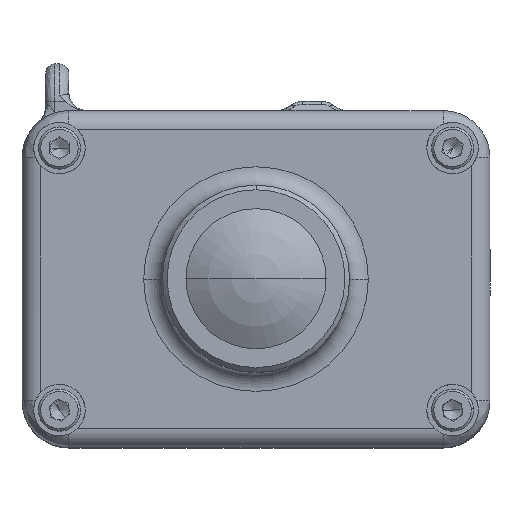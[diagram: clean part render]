
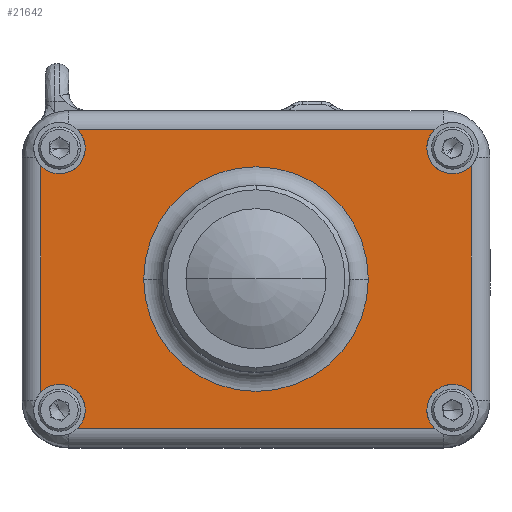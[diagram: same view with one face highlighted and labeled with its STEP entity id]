
A CAD part, top view. The second image highlights one B-rep face of the part: STEP entity #21642.
In plain terms, the highlighted planar face has unit normal (0, 0, 1).
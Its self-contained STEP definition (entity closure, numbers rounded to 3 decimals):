
#1700 = CIRCLE ( 'NONE', #28332, 2.75 ) ;
#2784 = CARTESIAN_POINT ( 'NONE',  ( -19.113, 16., 4. ) ) ;
#2810 = CARTESIAN_POINT ( 'NONE',  ( 19.113, 16., 4. ) ) ;
#2908 = CARTESIAN_POINT ( 'NONE',  ( 18.25, -14., 4. ) ) ;
#2909 = CARTESIAN_POINT ( 'NONE',  ( 19.113, -16., 4. ) ) ;
#5106 = CARTESIAN_POINT ( 'NONE',  ( 0., 0., 4. ) ) ;
#5107 = DIRECTION ( 'NONE',  ( 0., 0., -1. ) ) ;
#5108 = DIRECTION ( 'NONE',  ( 1., 0., 0. ) ) ;
#5263 = CARTESIAN_POINT ( 'NONE',  ( 21., 14., 4. ) ) ;
#5264 = DIRECTION ( 'NONE',  ( 0., 0., 1. ) ) ;
#5265 = DIRECTION ( 'NONE',  ( 1., 0., 0. ) ) ;
#5392 = CARTESIAN_POINT ( 'NONE',  ( -21., 14., 4. ) ) ;
#5393 = DIRECTION ( 'NONE',  ( 0., 0., 1. ) ) ;
#5394 = DIRECTION ( 'NONE',  ( 1., 0., 0. ) ) ;
#6044 = VERTEX_POINT ( 'NONE', #14900 ) ;
#6050 = VERTEX_POINT ( 'NONE', #14913 ) ;
#6051 = VERTEX_POINT ( 'NONE', #14914 ) ;
#6610 = VERTEX_POINT ( 'NONE', #8005 ) ;
#6612 = VERTEX_POINT ( 'NONE', #8006 ) ;
#6636 = VERTEX_POINT ( 'NONE', #8027 ) ;
#6637 = VERTEX_POINT ( 'NONE', #8028 ) ;
#7571 = CARTESIAN_POINT ( 'NONE',  ( -23., -12.113, 4. ) ) ;
#8005 = CARTESIAN_POINT ( 'NONE',  ( -23., 12.113, 4. ) ) ;
#8006 = CARTESIAN_POINT ( 'NONE',  ( -18.25, 14., 4. ) ) ;
#8027 = CARTESIAN_POINT ( 'NONE',  ( 18.25, 14., 4. ) ) ;
#8028 = CARTESIAN_POINT ( 'NONE',  ( 23., 12.113, 4. ) ) ;
#8453 = CARTESIAN_POINT ( 'NONE',  ( 12., 0., 4. ) ) ;
#8548 = CARTESIAN_POINT ( 'NONE',  ( 23., -12.113, 4. ) ) ;
#10487 = VERTEX_POINT ( 'NONE', #7571 ) ;
#12171 = FACE_OUTER_BOUND ( 'NONE', #35533, .T. ) ;
#12175 = FACE_BOUND ( 'NONE', #35536, .T. ) ;
#14667 = AXIS2_PLACEMENT_3D ( 'NONE', #32808, #32793, #32811 ) ;
#14900 = CARTESIAN_POINT ( 'NONE',  ( -12., 0., 4. ) ) ;
#14913 = CARTESIAN_POINT ( 'NONE',  ( -19.113, -16., 4. ) ) ;
#14914 = CARTESIAN_POINT ( 'NONE',  ( -18.25, -14., 4. ) ) ;
#16401 = ORIENTED_EDGE ( 'NONE', *, *, #26069, .T. ) ;
#16408 = ORIENTED_EDGE ( 'NONE', *, *, #25976, .F. ) ;
#16424 = ORIENTED_EDGE ( 'NONE', *, *, #26216, .T. ) ;
#16444 = ORIENTED_EDGE ( 'NONE', *, *, #26484, .F. ) ;
#16460 = ORIENTED_EDGE ( 'NONE', *, *, #26043, .T. ) ;
#16470 = ORIENTED_EDGE ( 'NONE', *, *, #26079, .F. ) ;
#16478 = ORIENTED_EDGE ( 'NONE', *, *, #26536, .T. ) ;
#16481 = ORIENTED_EDGE ( 'NONE', *, *, #26202, .T. ) ;
#16524 = ORIENTED_EDGE ( 'NONE', *, *, #25945, .F. ) ;
#16531 = ORIENTED_EDGE ( 'NONE', *, *, #26649, .F. ) ;
#16536 = ORIENTED_EDGE ( 'NONE', *, *, #25975, .F. ) ;
#16788 = ORIENTED_EDGE ( 'NONE', *, *, #26453, .F. ) ;
#16790 = ORIENTED_EDGE ( 'NONE', *, *, #26734, .F. ) ;
#16800 = ORIENTED_EDGE ( 'NONE', *, *, #26052, .F. ) ;
#18609 = VERTEX_POINT ( 'NONE', #2784 ) ;
#19295 = VERTEX_POINT ( 'NONE', #2810 ) ;
#20702 = VERTEX_POINT ( 'NONE', #2908 ) ;
#20703 = VERTEX_POINT ( 'NONE', #2909 ) ;
#21642 = ADVANCED_FACE ( 'NONE', ( #12175, #12171 ), #32809, .T. ) ;
#25945 = EDGE_CURVE ( 'NONE', #6051, #10487, #1700, .T. ) ;
#25975 = EDGE_CURVE ( 'NONE', #20703, #6050, #33208, .T. ) ;
#25976 = EDGE_CURVE ( 'NONE', #35350, #20702, #33206, .T. ) ;
#26043 = EDGE_CURVE ( 'NONE', #6610, #10487, #33302, .T. ) ;
#26052 = EDGE_CURVE ( 'NONE', #19295, #6636, #33313, .T. ) ;
#26069 = EDGE_CURVE ( 'NONE', #6044, #34930, #33315, .T. ) ;
#26079 = EDGE_CURVE ( 'NONE', #6612, #18609, #33343, .T. ) ;
#26202 = EDGE_CURVE ( 'NONE', #35350, #6637, #33515, .T. ) ;
#26216 = EDGE_CURVE ( 'NONE', #19295, #18609, #33538, .T. ) ;
#26453 = EDGE_CURVE ( 'NONE', #20702, #20703, #33624, .T. ) ;
#26484 = EDGE_CURVE ( 'NONE', #6050, #6051, #33647, .T. ) ;
#26536 = EDGE_CURVE ( 'NONE', #34930, #6044, #33675, .T. ) ;
#26649 = EDGE_CURVE ( 'NONE', #6636, #6637, #31150, .T. ) ;
#26734 = EDGE_CURVE ( 'NONE', #6610, #6612, #31215, .T. ) ;
#27728 = CARTESIAN_POINT ( 'NONE',  ( 21., 14., 4. ) ) ;
#27729 = DIRECTION ( 'NONE',  ( 0., 0., 1. ) ) ;
#27730 = DIRECTION ( 'NONE',  ( 1., 0., 0. ) ) ;
#27835 = CARTESIAN_POINT ( 'NONE',  ( 0., 0., 4. ) ) ;
#27836 = DIRECTION ( 'NONE',  ( 0., 0., -1. ) ) ;
#27837 = DIRECTION ( 'NONE',  ( 1., 0., 0. ) ) ;
#27918 = CARTESIAN_POINT ( 'NONE',  ( -21., 14., 4. ) ) ;
#27919 = DIRECTION ( 'NONE',  ( 0., 0., 1. ) ) ;
#27920 = DIRECTION ( 'NONE',  ( 1., 0., 0. ) ) ;
#28332 = AXIS2_PLACEMENT_3D ( 'NONE', #32310, #32311, #32312 ) ;
#28343 = AXIS2_PLACEMENT_3D ( 'NONE', #32431, #32432, #32433 ) ;
#28367 = AXIS2_PLACEMENT_3D ( 'NONE', #27728, #27729, #27730 ) ;
#28372 = AXIS2_PLACEMENT_3D ( 'NONE', #27835, #27836, #27837 ) ;
#28377 = AXIS2_PLACEMENT_3D ( 'NONE', #27918, #27919, #27920 ) ;
#28440 = AXIS2_PLACEMENT_3D ( 'NONE', #31031, #31032, #31033 ) ;
#28449 = AXIS2_PLACEMENT_3D ( 'NONE', #31076, #31077, #31078 ) ;
#28459 = AXIS2_PLACEMENT_3D ( 'NONE', #5106, #5107, #5108 ) ;
#28474 = AXIS2_PLACEMENT_3D ( 'NONE', #5263, #5264, #5265 ) ;
#28494 = AXIS2_PLACEMENT_3D ( 'NONE', #5392, #5393, #5394 ) ;
#30793 = CARTESIAN_POINT ( 'NONE',  ( 23., 0., 4. ) ) ;
#30794 = DIRECTION ( 'NONE',  ( 0., 1., 0. ) ) ;
#30819 = CARTESIAN_POINT ( 'NONE',  ( 0., 16., 4. ) ) ;
#30820 = DIRECTION ( 'NONE',  ( -1., 0., 0. ) ) ;
#31031 = CARTESIAN_POINT ( 'NONE',  ( 21., -14., 4. ) ) ;
#31032 = DIRECTION ( 'NONE',  ( 0., 0., 1. ) ) ;
#31033 = DIRECTION ( 'NONE',  ( 1., 0., 0. ) ) ;
#31076 = CARTESIAN_POINT ( 'NONE',  ( -21., -14., 4. ) ) ;
#31077 = DIRECTION ( 'NONE',  ( 0., 0., 1. ) ) ;
#31078 = DIRECTION ( 'NONE',  ( 1., 0., 0. ) ) ;
#31150 = CIRCLE ( 'NONE', #28474, 2.75 ) ;
#31215 = CIRCLE ( 'NONE', #28494, 2.75 ) ;
#32310 = CARTESIAN_POINT ( 'NONE',  ( -21., -14., 4. ) ) ;
#32311 = DIRECTION ( 'NONE',  ( 0., 0., 1. ) ) ;
#32312 = DIRECTION ( 'NONE',  ( 1., 0., 0. ) ) ;
#32411 = CARTESIAN_POINT ( 'NONE',  ( 0., -16., 4. ) ) ;
#32428 = DIRECTION ( 'NONE',  ( -1., 0., 0. ) ) ;
#32431 = CARTESIAN_POINT ( 'NONE',  ( 21., -14., 4. ) ) ;
#32432 = DIRECTION ( 'NONE',  ( 0., 0., 1. ) ) ;
#32433 = DIRECTION ( 'NONE',  ( 1., 0., 0. ) ) ;
#32617 = DIRECTION ( 'NONE',  ( 0., -1., 0. ) ) ;
#32618 = CARTESIAN_POINT ( 'NONE',  ( -23., 0., 4. ) ) ;
#32793 = DIRECTION ( 'NONE',  ( 0., 0., 1. ) ) ;
#32808 = CARTESIAN_POINT ( 'NONE',  ( 0., 0., 4. ) ) ;
#32809 = PLANE ( 'NONE',  #14667 ) ;
#32811 = DIRECTION ( 'NONE',  ( 1., 0., 0. ) ) ;
#33206 = CIRCLE ( 'NONE', #28343, 2.75 ) ;
#33208 = LINE ( 'NONE', #32411, #33209 ) ;
#33209 = VECTOR ( 'NONE', #32428, 1000. ) ;
#33302 = LINE ( 'NONE', #32618, #33304 ) ;
#33304 = VECTOR ( 'NONE', #32617, 1000. ) ;
#33313 = CIRCLE ( 'NONE', #28367, 2.75 ) ;
#33315 = CIRCLE ( 'NONE', #28372, 12. ) ;
#33343 = CIRCLE ( 'NONE', #28377, 2.75 ) ;
#33515 = LINE ( 'NONE', #30793, #33518 ) ;
#33518 = VECTOR ( 'NONE', #30794, 1000. ) ;
#33538 = LINE ( 'NONE', #30819, #33540 ) ;
#33540 = VECTOR ( 'NONE', #30820, 1000. ) ;
#33624 = CIRCLE ( 'NONE', #28440, 2.75 ) ;
#33647 = CIRCLE ( 'NONE', #28449, 2.75 ) ;
#33675 = CIRCLE ( 'NONE', #28459, 12. ) ;
#34930 = VERTEX_POINT ( 'NONE', #8453 ) ;
#35350 = VERTEX_POINT ( 'NONE', #8548 ) ;
#35533 = EDGE_LOOP ( 'NONE', ( #16444, #16536, #16788, #16408, #16481, #16531, #16800, #16424, #16470, #16790, #16460, #16524 ) ) ;
#35536 = EDGE_LOOP ( 'NONE', ( #16478, #16401 ) ) ;
